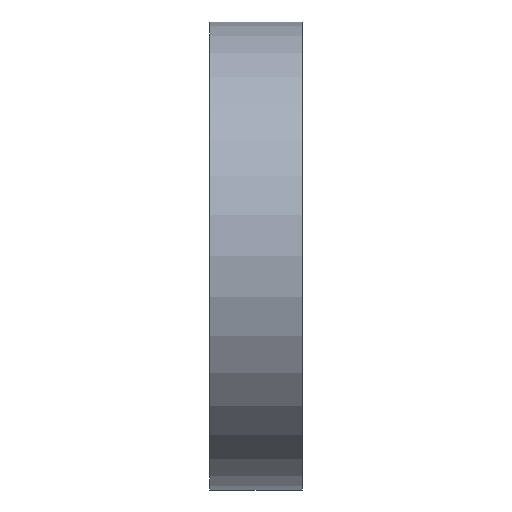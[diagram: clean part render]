
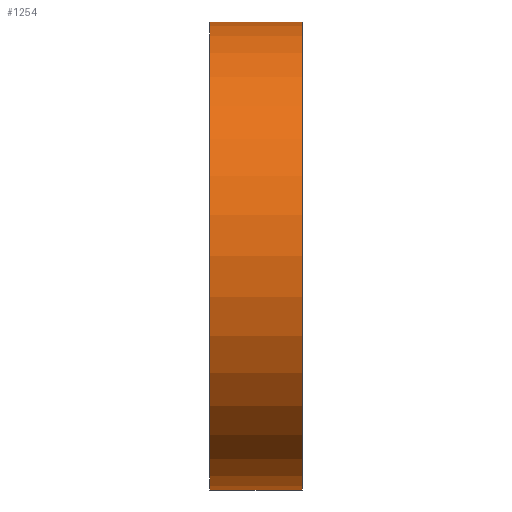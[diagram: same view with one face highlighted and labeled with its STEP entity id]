
A CAD part, front view. The second image highlights one B-rep face of the part: STEP entity #1254.
In plain terms, the highlighted cylindrical face has radius 241.29 mm (diameter 482.58 mm), a full revolution.
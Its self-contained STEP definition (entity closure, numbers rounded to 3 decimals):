
#145=FACE_BOUND('',#366,.T.);
#223=CYLINDRICAL_SURFACE('',#1423,241.29);
#288=FACE_OUTER_BOUND('',#365,.T.);
#365=EDGE_LOOP('',(#1089));
#366=EDGE_LOOP('',(#1090));
#489=CIRCLE('',#1424,241.29);
#490=CIRCLE('',#1425,241.29);
#633=VERTEX_POINT('',#2350);
#634=VERTEX_POINT('',#2352);
#815=EDGE_CURVE('',#633,#633,#489,.T.);
#816=EDGE_CURVE('',#634,#634,#490,.T.);
#1089=ORIENTED_EDGE('',*,*,#815,.T.);
#1090=ORIENTED_EDGE('',*,*,#816,.F.);
#1254=ADVANCED_FACE('',(#288,#145),#223,.T.);
#1423=AXIS2_PLACEMENT_3D('',#2349,#1818,#1819);
#1424=AXIS2_PLACEMENT_3D('',#2351,#1820,#1821);
#1425=AXIS2_PLACEMENT_3D('',#2353,#1822,#1823);
#1818=DIRECTION('center_axis',(-1.,0.,0.));
#1819=DIRECTION('ref_axis',(0.,-1.,0.));
#1820=DIRECTION('center_axis',(-1.,0.,0.));
#1821=DIRECTION('ref_axis',(0.,0.,1.));
#1822=DIRECTION('center_axis',(-1.,0.,0.));
#1823=DIRECTION('ref_axis',(0.,0.,1.));
#2349=CARTESIAN_POINT('Origin',(52.204,228.315,0.));
#2350=CARTESIAN_POINT('',(99.704,-12.975,0.));
#2351=CARTESIAN_POINT('Origin',(99.704,228.315,0.));
#2352=CARTESIAN_POINT('',(4.704,-12.975,0.));
#2353=CARTESIAN_POINT('Origin',(4.704,228.315,0.));
